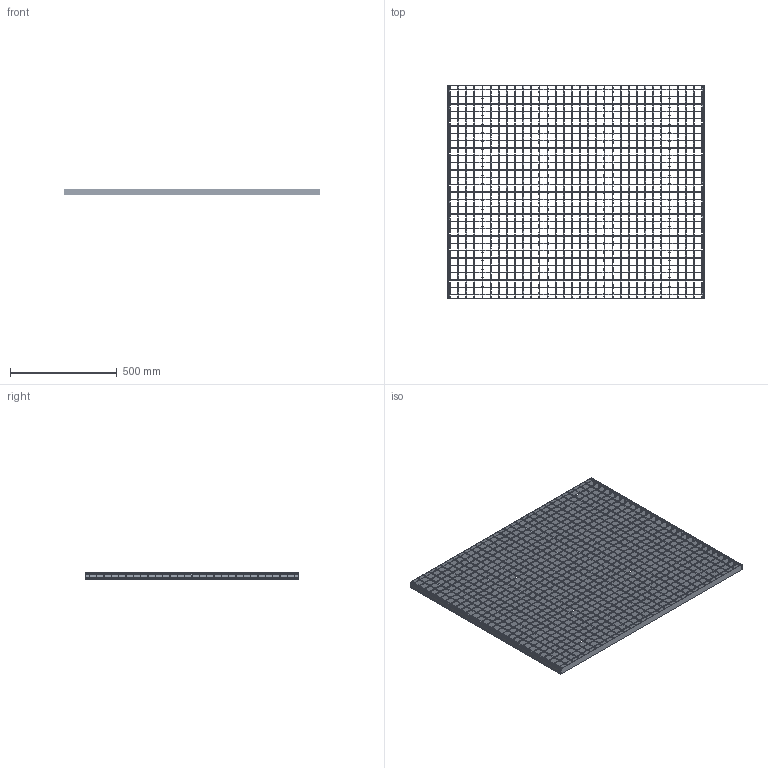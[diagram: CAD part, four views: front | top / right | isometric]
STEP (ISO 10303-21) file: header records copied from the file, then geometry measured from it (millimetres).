
FILE_DESCRIPTION(/* description */ ('STEP AP242','CAx-IF Rec.Pracs.---Representation and Presentation of Product Manufacturing Information (PMI)---4.0---2014-10-13','CAx-IF Rec.Pracs.---3D Tessellated Geometry---0.4---2014-09-14','2;1'),/* implementation_level */ '2;1');
FILE_NAME(/* name */ 'Lichtgitter_Forge_welded_gratings SP 230-34_38-2-1-1-1200-1000_(350_1_0)',/* time_stamp */ '2026-04-23T13:30:06+02:00',/* author */ ('License CC BY-ND 4.0'),/* organization */ ('CADENAS'),/* preprocessor_version */ 'ST-DEVELOPER v20',/* originating_system */ 'PARTsolutions',/* authorisation */ ' ');
FILE_SCHEMA (('AP242_MANAGED_MODEL_BASED_3D_ENGINEERING_MIM_LF { 1 0 10303 442 1 1 4 }'));
Length unit declared in the file: millimetre
Products named in the file (5): Lichtgitter_Forge_welded_gratings SP 230-34/38-2-1-1-1200-1000_(350_1
_0); Lichtgitter SP 230-34/38-2_(350_1_2_1200_1000_Schweisspressroste)_VER
TICAL_SIDES; Lichtgitter SP 230-34/38-2_(350_1_2_1200_1000_Schweisspressroste)_HOR
IZONTAL_C; Lichtgitter SP 230-34/38-2_(350_1_2_1200_1000_Schweisspressroste)_HOR
IZONTAL_SIDES; Lichtgitter SP 3.46530-34/38-3.465_(350_1_2_1200_1000_Schweisspressro
ste)_VERTICAL_C
Assembly tree (65 placements, depth 2):
  Lichtgitter_Forge_welded_gratings SP 230-34/38-2-1-1-1200-1000_(350_1
_0)
    Lichtgitter SP 230-34/38-2_(350_1_2_1200_1000_Schweisspressroste)_VER
TICAL_SIDES  x2
    Lichtgitter SP 230-34/38-2_(350_1_2_1200_1000_Schweisspressroste)_HOR
IZONTAL_C  x29
    Lichtgitter SP 230-34/38-2_(350_1_2_1200_1000_Schweisspressroste)_HOR
IZONTAL_SIDES  x2
    Lichtgitter SP 3.46530-34/38-3.465_(350_1_2_1200_1000_Schweisspressro
ste)_VERTICAL_C  x32
Bounding box: 1200 x 1000 x 30.72 mm (x, y, z)
Volume: 2674933.1 mm3; surface area: 2916729.7 mm2
Topology: 65 solids, 65 shells, 8542 faces, 18964 edges, 10552 vertices
Faces by surface type: bspline 6400, plane 1198, cylinder 944
Entity records: 9315 total; most frequent: CARTESIAN_POINT 2822, ORIENTED_EDGE 1336, DIRECTION 1068, EDGE_CURVE 668, LINE 584, VECTOR 584, VERTEX_POINT 380, EDGE_LOOP 296
